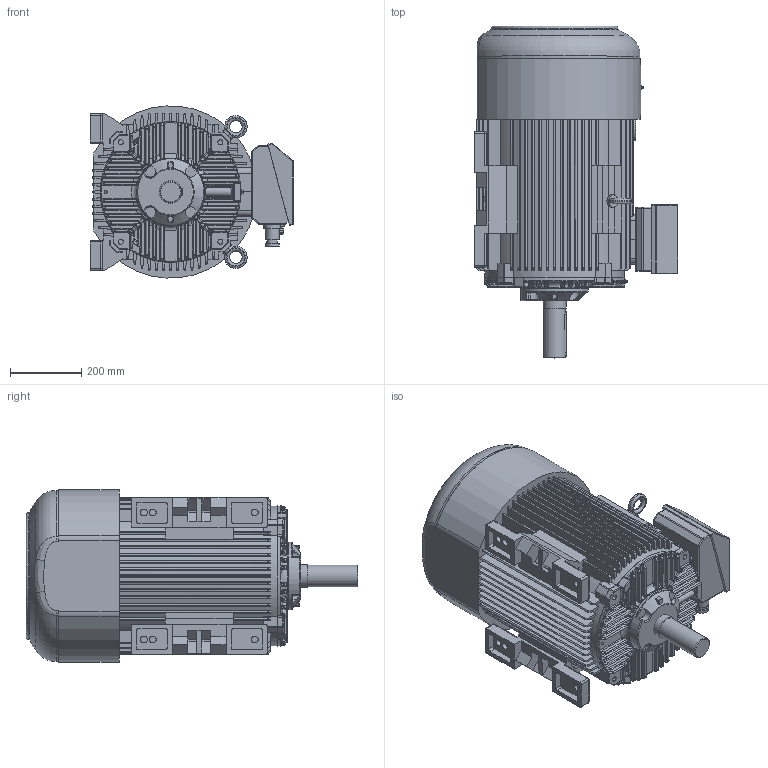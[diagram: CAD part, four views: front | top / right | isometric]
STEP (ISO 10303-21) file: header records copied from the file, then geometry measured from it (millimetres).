
FILE_DESCRIPTION(/* description */ ('Unknown'),/* implementation_level */ '2;1');
FILE_NAME(/* name */ '3SIE225S4_8, M4_8',/* time_stamp */ '2021-04-12T13:05:52+02:00',/* author */ ('Unknown'),/* organization */ ('Unknown'),/* preprocessor_version */ 'ST-DEVELOPER v16.7',/* originating_system */ 'DEX',/* authorisation */ $);
FILE_SCHEMA (('AUTOMOTIVE_DESIGN {1 0 10303 214 3 1 1}'));
Length unit declared in the file: millimetre
Products named in the file (1): 3SIE225 S_M4_6 silnik
Bounding box: 570 x 930 x 482.33 mm (x, y, z)
Volume: 113737751.5 mm3; surface area: 3195650.6 mm2
Topology: 1 solids, 11 shells, 1983 faces, 4981 edges, 2923 vertices
Faces by surface type: plane 731, cylinder 595, bspline 302, torus 219, sphere 126, cone 10
Full cylindrical faces by diameter (mm): 1.6 x2, 5 x3, 6 x2, 8.376 x3, 8.917 x1, 10 x5, 14 x4, 16.891 x1, 19 x6, 24 x1, 26.969 x1, 30 x4, 30.249 x1, 31 x1, 35 x4, 40 x7, 47 x2, 60 x1, 64.5 x1, 140 x1, 188 x1, 190 x1
Entity records: 77631 total; most frequent: CARTESIAN_POINT 18893, DIRECTION 9438, ORIENTED_EDGE 9420, EDGE_CURVE 4710, AXIS2_PLACEMENT_3D 3697, VERTEX_POINT 2865, FACE_BOUND 2127, EDGE_LOOP 2125
